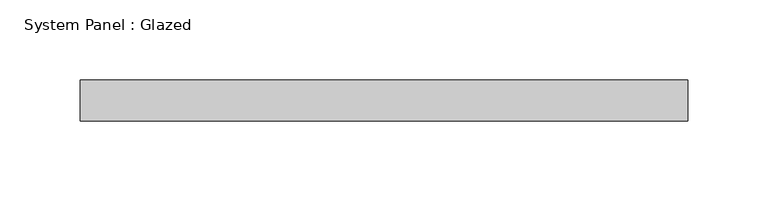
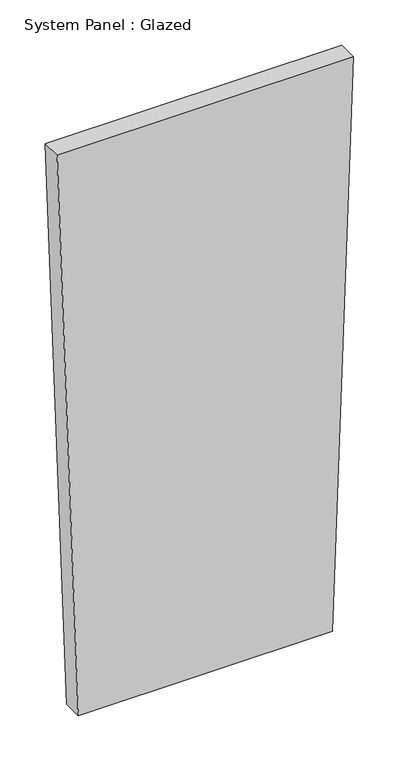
"""IFC4 building model written with IfcOpenShell, lengths in millimetres: plate geometry, System Panel : Glazed."""

from ifc_helpers import new_model, si_unit, frame, origin, place, context, project, spatial, polyline, outline, extrude, source, transform, mapped, element, save


def system_panel_glazed_2137f639(model_context):
    return source(origin(), model_context, "Body", "SweptSolid", [
        extrude(outline(polyline([(0.0, -161.6006606), (0.0, 161.6006606), (761.5238602, 188.5341041), (761.5238602, -188.5341041), (0.0, -161.6006606)])), frame((0.0, -44.45, 0.0), z_axis=(0.0, 1.0, 0.0), x_axis=(0.0, 0.0, 1.0)), (0.0, 0.0, 1.0), 25.4),
    ])


if __name__ == "__main__":
    model = new_model("IFC4")
    model_context = context("Model", 3, world=origin())
    ifc_project = project(units=[si_unit("LENGTHUNIT", "METRE", prefix="MILLI")], contexts=[model_context])
    site = spatial("IfcSite", under=ifc_project)
    building = spatial("IfcBuilding", under=site)
    placement = place(None, origin())
    system_panel_glazed_shape = system_panel_glazed_2137f639(model_context)
    element("IfcPlate", 1, ObjectType="System Panel : Glazed", at=placement, inside=building, context=model_context, shape_type="MappedRepresentation", body=[
        mapped(system_panel_glazed_shape, transform((0.0, 0.0, 0.0), x_axis=(1.0, 0.0, 0.0), y_axis=(0.0, 1.0, 0.0), z_axis=(0.0, 0.0, 1.0))),
    ])
    save(model, "model.ifc")
